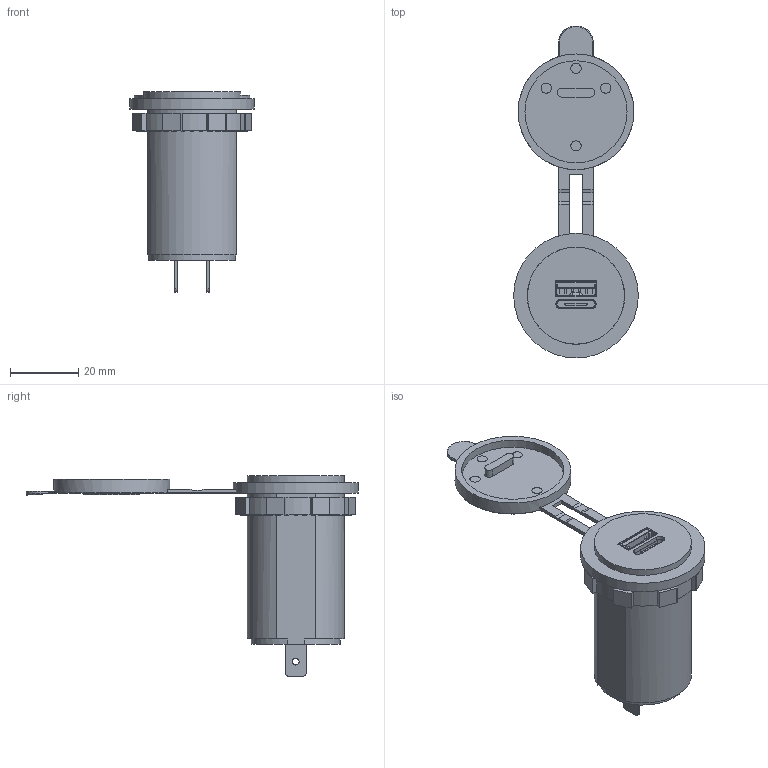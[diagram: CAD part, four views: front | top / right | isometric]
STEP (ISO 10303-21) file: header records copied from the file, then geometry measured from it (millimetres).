
FILE_DESCRIPTION(/* description */ (''),/* implementation_level */ '2;1');
FILE_NAME(/* name */ 'A7B-USB2C-1-B.stp',/* time_stamp */ '2025-01-20T11:29:16-08:00',/* author */ ('tylerl'),/* organization */ (''),/* preprocessor_version */ 'ST-DEVELOPER v20',/* originating_system */ 'Autodesk Inventor 2025',/* authorisation */ '');
FILE_SCHEMA (('AUTOMOTIVE_DESIGN { 1 0 10303 214 3 1 1 }'));
Length unit declared in the file: millimetre
Products named in the file (5): A7B-USB2C-1-B; Base_A7B-USB2C-1-B; Ring; USB Port; Cover
Assembly tree (4 placements, depth 2):
  A7B-USB2C-1-B
    Base_A7B-USB2C-1-B
    Ring
    USB Port
    Cover
Bounding box: 36.6 x 97.51 x 58.8 mm (x, y, z)
Volume: 35200.8 mm3; surface area: 15392.1 mm2
Topology: 10 solids, 10 shells, 683 faces, 1918 edges, 1268 vertices
Faces by surface type: plane 535, cylinder 127, bspline 14, torus 5, sphere 2
Full cylindrical faces by diameter (mm): 0.754 x4, 1.75 x4, 2 x2, 3 x4, 16.5 x1, 28.5 x3, 28.578 x1, 30 x1, 34 x1, 36.6 x1
Entity records: 22688 total; most frequent: CARTESIAN_POINT 4516, ORIENTED_EDGE 3832, DIRECTION 3674, EDGE_CURVE 1916, LINE 1464, VECTOR 1464, VERTEX_POINT 1268, AXIS2_PLACEMENT_3D 1105
